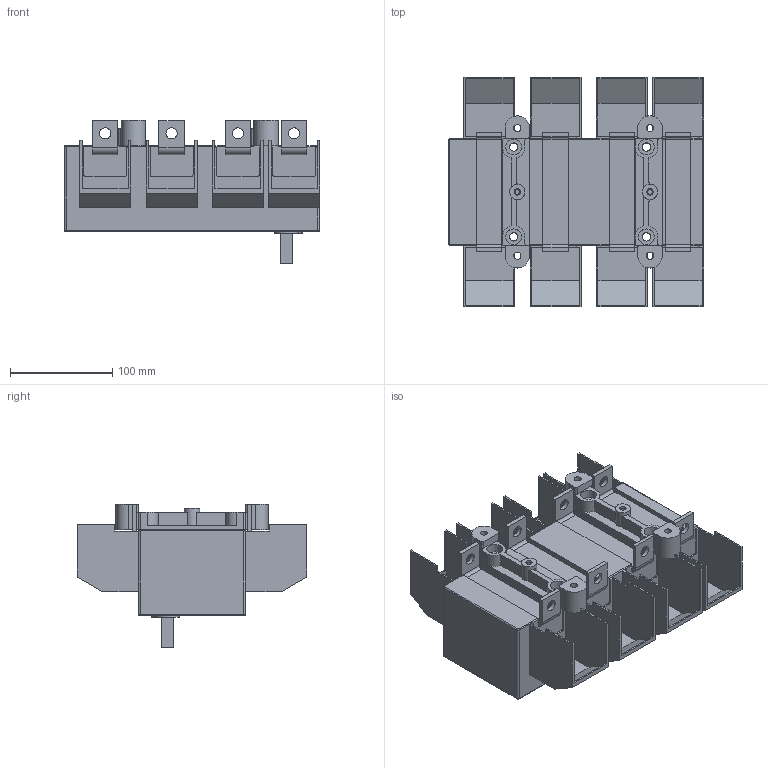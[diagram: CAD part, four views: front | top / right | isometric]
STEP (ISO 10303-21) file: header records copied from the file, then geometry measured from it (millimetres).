
FILE_DESCRIPTION(/* description */ (''),/* implementation_level */ '2;1');
FILE_NAME(/* name */ 'RA400 P3 NC z oslona zaciskow.stp',/* time_stamp */ '2021-08-18T14:29:53+02:00',/* author */ (''),/* organization */ (''),/* preprocessor_version */ 'ST-DEVELOPER v18.1',/* originating_system */ 'SIEMENS PLM Software NX 1965',/* authorisation */ '');
FILE_SCHEMA (('AUTOMOTIVE_DESIGN { 1 0 10303 214 3 1 1 1 }'));
Length unit declared in the file: millimetre
Products named in the file (1): RA400 P3 NC z oslona zaciskow_stp
Bounding box: 250 x 225 x 141 mm (x, y, z)
Volume: 2387625.3 mm3; surface area: 333901.8 mm2
Topology: 1 solids, 1 shells, 442 faces, 1222 edges, 802 vertices
Faces by surface type: plane 314, cylinder 120, torus 5, bspline 3
Full cylindrical faces by diameter (mm): 4.8 x2, 6.2 x2, 7 x4, 8.2 x4, 11 x8, 14 x4, 15 x2, 15.5 x4
Entity records: 13965 total; most frequent: CARTESIAN_POINT 2496, ORIENTED_EDGE 2376, DIRECTION 2336, EDGE_CURVE 1188, LINE 916, VECTOR 916, VERTEX_POINT 798, AXIS2_PLACEMENT_3D 710
